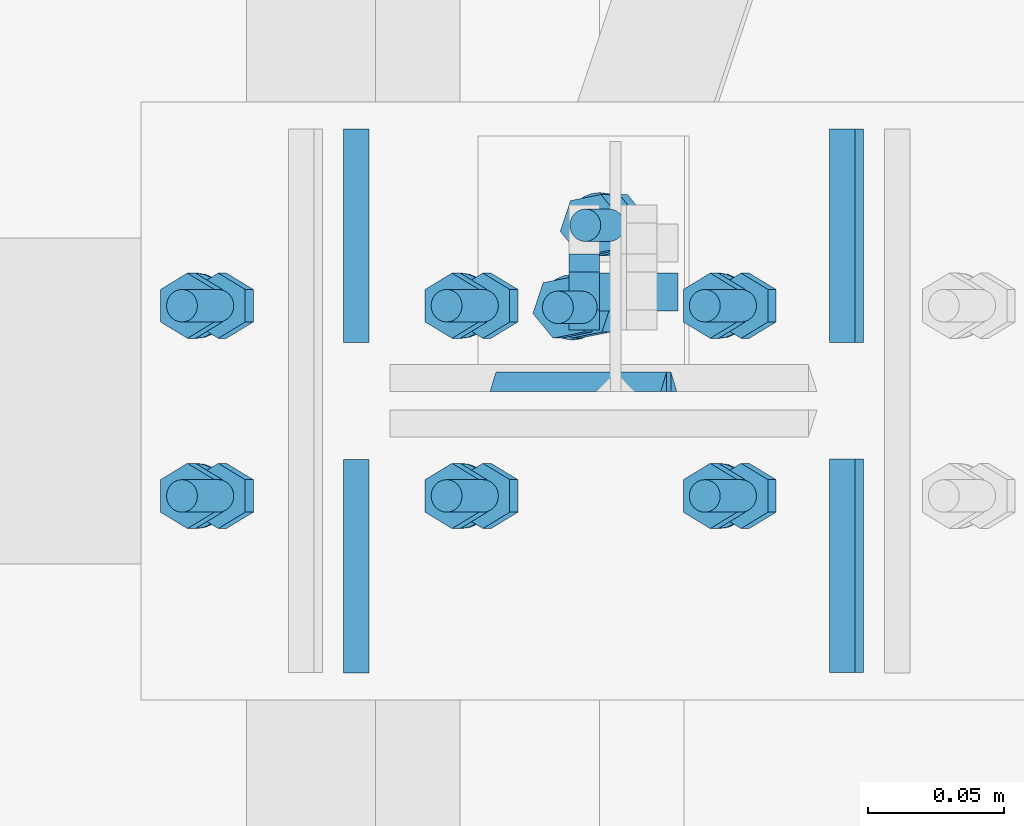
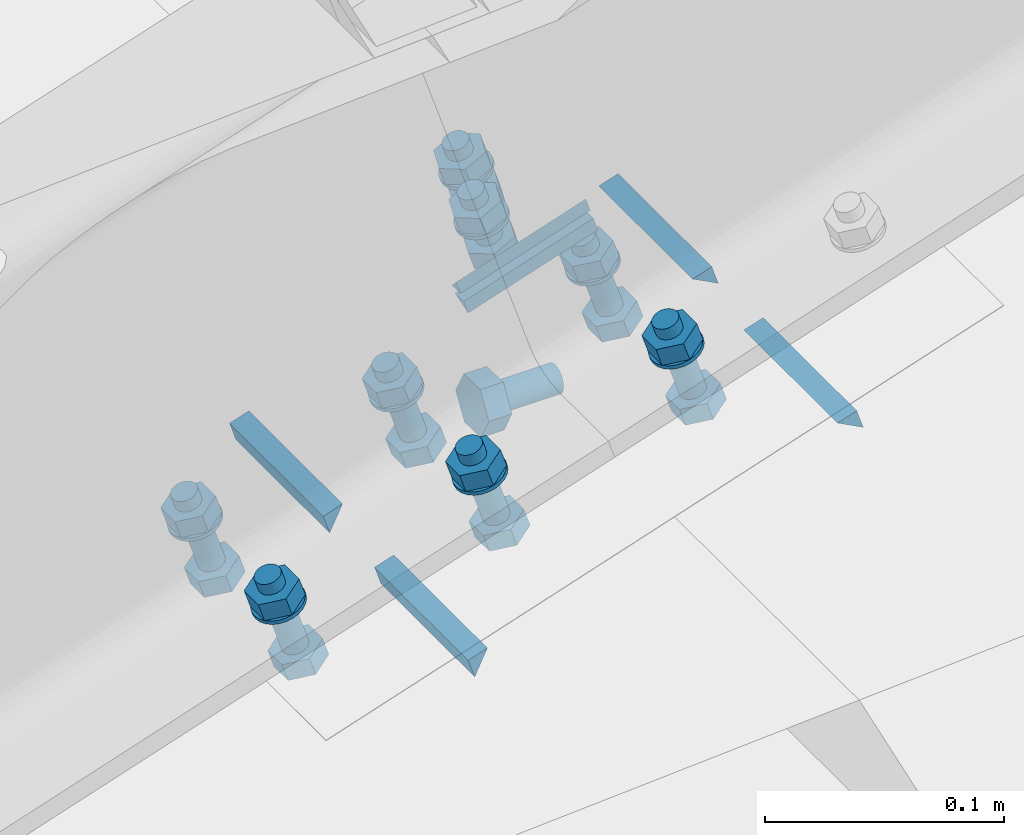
# One storey, part 35 of 53: 34 mechanical fasteners, 10 fasteners.
"""IFC4 building model written with IfcOpenShell, lengths in metres."""

from ifc_helpers import new_model, si_unit, frame, origin_with_axes, place, context, project, spatial, polyline, outline, extrude, type_object, element, save


model = new_model("IFC4")

# Units and contexts
model_context = context("Model", 3, precision=1e-05, world=origin_with_axes())
ifc_project = project(units=[si_unit("LENGTHUNIT", "METRE"), si_unit("AREAUNIT", "SQUARE_METRE"), si_unit("VOLUMEUNIT", "CUBIC_METRE"), si_unit("MASSUNIT", "GRAM", prefix="KILO"), si_unit("TIMEUNIT", "SECOND"), si_unit("PLANEANGLEUNIT", "RADIAN"), si_unit("SOLIDANGLEUNIT", "STERADIAN"), si_unit("THERMODYNAMICTEMPERATUREUNIT", "DEGREE_CELSIUS")], contexts=[model_context])

# Site, building, storey
placement_1 = place(None, origin_with_axes())
site = spatial("IfcSite", under=ifc_project, at=placement_1, Name="Italia", CompositionType="ELEMENT")
building = spatial("IfcBuilding", under=site, at=placement_1, Name="Capannone", CompositionType="ELEMENT")
storey_placement = place(None, frame((0.0, 0.0, 5.550000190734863), z_axis=(0.0, 0.0, 1.0), x_axis=(1.0, 0.0, 0.0)))
storey = spatial("IfcBuildingStorey", under=building, at=storey_placement, Name="Storey 1", CompositionType="ELEMENT", Elevation=5.550000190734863)

# Fasteners
fastener_type_1 = type_object("IfcFastenerType", Name="Collegamenti 0101_0001 0103_0003 0105_0005 0107_0007 0109_0009 0111_0011", PredefinedType="WELD")
placement_2 = place(placement_1, origin_with_axes())
fastener_1_placement = place(placement_2, origin_with_axes())
element("IfcFastener", 1, at=fastener_1_placement, inside=storey, type_object=fastener_type_1, Name="Collegamenti 0101_0001 0103_0003 0105_0005 0107_0007 0109_0009 0111_0011", context=model_context, shape_type="SweptSolid", body=[
    extrude(outline(polyline([(0.0, 0.0), (-0.00619942, -0.0127454), (-0.00937507, -0.00308037), (0.0, 0.0)])), frame((-0.0846885, 12.1, 5.50644), z_axis=(0.0, -1.0, 0.0), x_axis=(1.0, 0.0, 0.0)), (0.0, 0.0, 1.0), 0.0785999),
])
fastener_type_2 = type_object("IfcFastenerType", Name="Collegamenti 0101_0001 0103_0003 0105_0005 0107_0007 0109_0009 0111_0011", PredefinedType="WELD")
fastener_2_placement = place(placement_2, origin_with_axes())
element("IfcFastener", 2, at=fastener_2_placement, inside=storey, type_object=fastener_type_2, Name="Collegamenti 0101_0001 0103_0003 0105_0005 0107_0007 0109_0009 0111_0011", context=model_context, shape_type="SweptSolid", body=[
    extrude(outline(polyline([(0.0, 0.0), (-0.0125507, -0.00658464), (-0.00937507, 0.00308037), (0.0, 0.0)])), frame((0.0846564, 12.0215, 5.56208), z_axis=(0.0, 1.0, 0.0), x_axis=(-1.0, 0.0, 0.0)), (0.0, 0.0, 1.0), 0.0785999),
])
fastener_type_3 = type_object("IfcFastenerType", Name="Collegamenti 0101_0001 0103_0003 0105_0005 0107_0007 0109_0009 0111_0011", PredefinedType="WELD")
fastener_3_placement = place(placement_2, origin_with_axes())
element("IfcFastener", 3, at=fastener_3_placement, inside=storey, type_object=fastener_type_3, Name="Collegamenti 0101_0001 0103_0003 0105_0005 0107_0007 0109_0009 0111_0011", context=model_context, shape_type="SweptSolid", body=[
    extrude(outline(polyline([(0.0, 0.0), (-0.0125507, -0.00658464), (-0.00937507, 0.00308037), (0.0, 0.0)])), frame((0.0846564, 11.9, 5.56208), z_axis=(0.0, 1.0, 0.0), x_axis=(-1.0, 0.0, 0.0)), (0.0, 0.0, 1.0), 0.0785999),
])
fastener_type_4 = type_object("IfcFastenerType", Name="Collegamenti 0101_0001 0103_0003 0105_0005 0107_0007 0109_0009 0111_0011", PredefinedType="WELD")
fastener_4_placement = place(placement_2, origin_with_axes())
element("IfcFastener", 4, at=fastener_4_placement, inside=storey, type_object=fastener_type_4, Name="Collegamenti 0101_0001 0103_0003 0105_0005 0107_0007 0109_0009 0111_0011", context=model_context, shape_type="SweptSolid", body=[
    extrude(outline(polyline([(0.0, 0.0), (-0.00619942, -0.0127454), (-0.00937507, -0.00308037), (0.0, 0.0)])), frame((-0.0846885, 11.9785, 5.50644), z_axis=(0.0, -1.0, 0.0), x_axis=(1.0, 0.0, 0.0)), (0.0, 0.0, 1.0), 0.0785999),
])
fastener_type_5 = type_object("IfcFastenerType", Name="Collegamenti 0101_0001 0103_0003 0105_0005 0107_0007 0109_0009 0111_0011", PredefinedType="WELD")
fastener_5_placement = place(placement_2, origin_with_axes())
element("IfcFastener", 5, at=fastener_5_placement, inside=storey, type_object=fastener_type_5, Name="Collegamenti 0101_0001 0103_0003 0105_0005 0107_0007 0109_0009 0111_0011", context=model_context, shape_type="SweptSolid", body=[
    extrude(outline(polyline([(0.0, 0.0), (-0.00619942, -0.0127454), (-0.00937507, -0.00308037), (0.0, 0.0)])), frame((-0.0846885, 12.1, 5.50644), z_axis=(0.0, -1.0, 0.0), x_axis=(1.0, 0.0, 0.0)), (0.0, 0.0, 1.0), 0.0785999),
])
fastener_type_6 = type_object("IfcFastenerType", Name="Collegamenti 0101_0001 0103_0003 0105_0005 0107_0007 0109_0009 0111_0011", PredefinedType="WELD")
fastener_6_placement = place(placement_2, origin_with_axes())
element("IfcFastener", 6, at=fastener_6_placement, inside=storey, type_object=fastener_type_6, Name="Collegamenti 0101_0001 0103_0003 0105_0005 0107_0007 0109_0009 0111_0011", context=model_context, shape_type="SweptSolid", body=[
    extrude(outline(polyline([(0.0, 0.0), (-0.0125507, -0.00658464), (-0.00937507, 0.00308037), (0.0, 0.0)])), frame((0.0846564, 12.0215, 5.56208), z_axis=(0.0, 1.0, 0.0), x_axis=(-1.0, 0.0, 0.0)), (0.0, 0.0, 1.0), 0.0785999),
])
fastener_type_7 = type_object("IfcFastenerType", Name="Collegamenti 0101_0001 0103_0003 0105_0005 0107_0007 0109_0009 0111_0011", PredefinedType="WELD")
fastener_7_placement = place(placement_2, origin_with_axes())
element("IfcFastener", 7, at=fastener_7_placement, inside=storey, type_object=fastener_type_7, Name="Collegamenti 0101_0001 0103_0003 0105_0005 0107_0007 0109_0009 0111_0011", context=model_context, shape_type="SweptSolid", body=[
    extrude(outline(polyline([(0.0, 0.0), (-0.0125507, -0.00658464), (-0.00937507, 0.00308037), (0.0, 0.0)])), frame((0.0846564, 11.9, 5.56208), z_axis=(0.0, 1.0, 0.0), x_axis=(-1.0, 0.0, 0.0)), (0.0, 0.0, 1.0), 0.0785999),
])
fastener_type_8 = type_object("IfcFastenerType", Name="Collegamenti 0101_0001 0103_0003 0105_0005 0107_0007 0109_0009 0111_0011", PredefinedType="WELD")
fastener_8_placement = place(placement_2, origin_with_axes())
element("IfcFastener", 8, at=fastener_8_placement, inside=storey, type_object=fastener_type_8, Name="Collegamenti 0101_0001 0103_0003 0105_0005 0107_0007 0109_0009 0111_0011", context=model_context, shape_type="SweptSolid", body=[
    extrude(outline(polyline([(0.0, 0.0), (-0.00619942, -0.0127454), (-0.00937507, -0.00308037), (0.0, 0.0)])), frame((-0.0846885, 11.9785, 5.50644), z_axis=(0.0, -1.0, 0.0), x_axis=(1.0, 0.0, 0.0)), (0.0, 0.0, 1.0), 0.0785999),
])

# Mechanical fasteners
mechanical_fastener_type_1 = type_object("IfcMechanicalFastenerType", Name="Collegamenti 0101_0001 0103_0003 0105_0005 0107_0007 0109_0009 0111_0011", PredefinedType="BOLT")
mechanical_fastener_1_placement = place(placement_2, origin_with_axes())
element("IfcMechanicalFastener", 9, at=mechanical_fastener_1_placement, inside=storey, type_object=mechanical_fastener_type_1, Name="Collegamenti 0101_0001 0103_0003 0105_0005 0107_0007 0109_0009 0111_0011", NominalDiameter=0.0119998, context=model_context, shape_type="SweptSolid", body=[
    extrude(outline(polyline([(0.0, 0.0), (0.0120001, 0.0), (0.0179996, -0.0103923), (0.0120001, -0.0207845), (0.0, -0.0207845), (-0.00600052, -0.0103923), (0.0, 0.0)])), frame((-0.130325, 12.029, 5.49139), z_axis=(0.312164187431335, 0.0, -0.95002818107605), x_axis=(0.0, 1.0, 0.0)), (0.0, 0.0, 1.0), 0.0095997),
])
mechanical_fastener_type_2 = type_object("IfcMechanicalFastenerType", Name="Collegamenti 0101_0001 0103_0003 0105_0005 0107_0007 0109_0009 0111_0011", PredefinedType="BOLT")
mechanical_fastener_2_placement = place(placement_2, origin_with_axes())
element("IfcMechanicalFastener", 10, at=mechanical_fastener_2_placement, inside=storey, type_object=mechanical_fastener_type_2, Name="Collegamenti 0101_0001 0103_0003 0105_0005 0107_0007 0109_0009 0111_0011", NominalDiameter=0.012, context=model_context, shape_type="SweptSolid", body=[
    extrude(outline(polyline([(0.0, 0.0), (-0.000204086, -0.00155306), (-0.000802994, -0.00300002), (-0.00175667, -0.00424254), (-0.00299931, -0.00519633), (-0.00444698, -0.0057956), (-0.00599957, -0.00600004), (-0.00755215, -0.0057956), (-0.00899982, -0.00519633), (-0.0102425, -0.00424254), (-0.0111961, -0.00300002), (-0.011795, -0.00155306), (-0.0119991, 0.0), (-0.011795, 0.00155294), (-0.0111961, 0.00300002), (-0.0102425, 0.00424254), (-0.00899982, 0.00519621), (-0.00755215, 0.00579548), (-0.00599957, 0.00600004), (-0.00444698, 0.00579548), (-0.00299931, 0.00519621), (-0.00175667, 0.00424254), (-0.000802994, 0.00300002), (-0.000204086, 0.00155294), (0.0, 0.0)])), frame((-0.153558, 12.041, 5.52881), z_axis=(0.312153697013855, 0.0, -0.950031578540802), x_axis=(0.0, 1.0, 0.0)), (0.0, 0.0, 1.0), 0.0428),
])
mechanical_fastener_type_3 = type_object("IfcMechanicalFastenerType", Name="Collegamenti 0101_0001 0103_0003 0105_0005 0107_0007 0109_0009 0111_0011", PredefinedType="BOLT")
mechanical_fastener_3_placement = place(placement_2, origin_with_axes())
element("IfcMechanicalFastener", 11, at=mechanical_fastener_3_placement, inside=storey, type_object=mechanical_fastener_type_3, Name="Collegamenti 0101_0001 0103_0003 0105_0005 0107_0007 0109_0009 0111_0011", NominalDiameter=0.0119998, context=model_context, shape_type="SweptSolid", body=[
    extrude(outline(polyline([(0.0, 0.0), (0.0120001, 0.0), (0.0179996, -0.0103924), (0.0120001, -0.0207846), (0.0, -0.0207846), (-0.00600052, -0.0103924), (0.0, 0.0)])), frame((-0.141687, 12.029, 5.52597), z_axis=(0.312164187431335, 0.0, -0.95002818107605), x_axis=(0.0, 1.0, 0.0)), (0.0, 0.0, 1.0), 0.0095997),
])
mechanical_fastener_type_4 = type_object("IfcMechanicalFastenerType", Name="Collegamenti 0101_0001 0103_0003 0105_0005 0107_0007 0109_0009 0111_0011", PredefinedType="BOLT")
mechanical_fastener_4_placement = place(placement_2, origin_with_axes())
element("IfcMechanicalFastener", 12, at=mechanical_fastener_4_placement, inside=storey, type_object=mechanical_fastener_type_4, Name="Collegamenti 0101_0001 0103_0003 0105_0005 0107_0007 0109_0009 0111_0011", NominalDiameter=0.024, context=model_context, shape_type="SweptSolid", body=[
    extrude(outline(polyline([(0.0, 0.0), (-0.000409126, -0.00310576), (-0.00160789, -0.00599992), (-0.00351524, -0.0084852), (-0.00600052, -0.0103922), (-0.00889397, -0.0115911), (-0.0120001, -0.0119998), (-0.0151062, -0.0115911), (-0.0179996, -0.0103922), (-0.0204849, -0.0084852), (-0.0223923, -0.00599992), (-0.023591, -0.00310576), (-0.0240002, 0.0), (-0.023591, 0.003106), (-0.0223923, 0.00600016), (-0.0204849, 0.00848532), (-0.0179996, 0.0103924), (-0.0151062, 0.0115913), (-0.0120001, 0.0120001), (-0.00889397, 0.0115913), (-0.00600052, 0.0103924), (-0.00351524, 0.00848532), (-0.00160789, 0.00600016), (-0.000409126, 0.003106), (0.0, 0.0)])), frame((-0.148563, 12.047, 5.51361), z_axis=(0.312059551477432, 0.0, -0.95006251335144), x_axis=(0.0, 1.0, 0.0)), (0.0, 0.0, 1.0), 0.00200058),
])
mechanical_fastener_type_5 = type_object("IfcMechanicalFastenerType", Name="Collegamenti 0101_0001 0103_0003 0105_0005 0107_0007 0109_0009 0111_0011", PredefinedType="BOLT")
mechanical_fastener_5_placement = place(placement_2, origin_with_axes())
element("IfcMechanicalFastener", 13, at=mechanical_fastener_5_placement, inside=storey, type_object=mechanical_fastener_type_5, Name="Collegamenti 0101_0001 0103_0003 0105_0005 0107_0007 0109_0009 0111_0011", NominalDiameter=0.0119998, context=model_context, shape_type="SweptSolid", body=[
    extrude(outline(polyline([(0.0, 0.0), (0.0120001, 0.0), (0.0180006, -0.0103923), (0.0120001, -0.0207845), (0.0, -0.0207845), (-0.00599957, -0.0103923), (0.0, 0.0)])), frame((-0.130325, 11.959, 5.49139), z_axis=(0.312164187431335, 0.0, -0.95002818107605), x_axis=(0.0, 1.0, 0.0)), (0.0, 0.0, 1.0), 0.0095997),
])
mechanical_fastener_type_6 = type_object("IfcMechanicalFastenerType", Name="Collegamenti 0101_0001 0103_0003 0105_0005 0107_0007 0109_0009 0111_0011", PredefinedType="BOLT")
mechanical_fastener_6_placement = place(placement_2, origin_with_axes())
element("IfcMechanicalFastener", 14, at=mechanical_fastener_6_placement, inside=storey, type_object=mechanical_fastener_type_6, Name="Collegamenti 0101_0001 0103_0003 0105_0005 0107_0007 0109_0009 0111_0011", NominalDiameter=0.012, context=model_context, shape_type="SweptSolid", body=[
    extrude(outline(polyline([(0.0, 0.0), (-0.000204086, -0.00155306), (-0.000802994, -0.00300002), (-0.00175667, -0.00424254), (-0.00299931, -0.00519633), (-0.00444698, -0.0057956), (-0.00599957, -0.00600004), (-0.00755215, -0.0057956), (-0.00899982, -0.00519633), (-0.0102425, -0.00424254), (-0.0111961, -0.00300002), (-0.011795, -0.00155306), (-0.0119991, 0.0), (-0.011795, 0.00155294), (-0.0111961, 0.00300002), (-0.0102425, 0.00424254), (-0.00899982, 0.00519621), (-0.00755215, 0.00579548), (-0.00599957, 0.00600004), (-0.00444698, 0.00579548), (-0.00299931, 0.00519621), (-0.00175667, 0.00424254), (-0.000802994, 0.00300002), (-0.000204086, 0.00155294), (0.0, 0.0)])), frame((-0.153558, 11.971, 5.52881), z_axis=(0.312153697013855, 0.0, -0.950031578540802), x_axis=(0.0, 1.0, 0.0)), (0.0, 0.0, 1.0), 0.0428),
])
mechanical_fastener_type_7 = type_object("IfcMechanicalFastenerType", Name="Collegamenti 0101_0001 0103_0003 0105_0005 0107_0007 0109_0009 0111_0011", PredefinedType="BOLT")
mechanical_fastener_7_placement = place(placement_2, origin_with_axes())
element("IfcMechanicalFastener", 15, at=mechanical_fastener_7_placement, inside=storey, type_object=mechanical_fastener_type_7, Name="Collegamenti 0101_0001 0103_0003 0105_0005 0107_0007 0109_0009 0111_0011", NominalDiameter=0.0119998, context=model_context, shape_type="SweptSolid", body=[
    extrude(outline(polyline([(0.0, 0.0), (0.0120001, 0.0), (0.0180006, -0.0103924), (0.0120001, -0.0207846), (0.0, -0.0207846), (-0.00599957, -0.0103924), (0.0, 0.0)])), frame((-0.141687, 11.959, 5.52597), z_axis=(0.312164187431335, 0.0, -0.95002818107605), x_axis=(0.0, 1.0, 0.0)), (0.0, 0.0, 1.0), 0.0095997),
])
mechanical_fastener_type_8 = type_object("IfcMechanicalFastenerType", Name="Collegamenti 0101_0001 0103_0003 0105_0005 0107_0007 0109_0009 0111_0011", PredefinedType="BOLT")
mechanical_fastener_8_placement = place(placement_2, origin_with_axes())
element("IfcMechanicalFastener", 16, at=mechanical_fastener_8_placement, inside=storey, type_object=mechanical_fastener_type_8, Name="Collegamenti 0101_0001 0103_0003 0105_0005 0107_0007 0109_0009 0111_0011", NominalDiameter=0.024, context=model_context, shape_type="SweptSolid", body=[
    extrude(outline(polyline([(0.0, 0.0), (-0.000409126, -0.00310576), (-0.00160789, -0.00599992), (-0.00351524, -0.0084852), (-0.00600052, -0.0103922), (-0.00889397, -0.0115911), (-0.0120001, -0.0119998), (-0.0151062, -0.0115911), (-0.0179996, -0.0103922), (-0.0204849, -0.0084852), (-0.0223923, -0.00599992), (-0.023591, -0.00310576), (-0.0240002, 0.0), (-0.023591, 0.003106), (-0.0223923, 0.00600016), (-0.0204849, 0.00848532), (-0.0179996, 0.0103924), (-0.0151062, 0.0115913), (-0.0120001, 0.0120001), (-0.00889397, 0.0115913), (-0.00600052, 0.0103924), (-0.00351524, 0.00848532), (-0.00160789, 0.00600016), (-0.000409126, 0.003106), (0.0, 0.0)])), frame((-0.148563, 11.977, 5.51361), z_axis=(0.312059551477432, 0.0, -0.95006251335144), x_axis=(0.0, 1.0, 0.0)), (0.0, 0.0, 1.0), 0.00200058),
])
mechanical_fastener_type_9 = type_object("IfcMechanicalFastenerType", Name="Collegamenti 0101_0001 0103_0003 0105_0005 0107_0007 0109_0009 0111_0011", PredefinedType="BOLT")
mechanical_fastener_9_placement = place(placement_2, origin_with_axes())
element("IfcMechanicalFastener", 17, at=mechanical_fastener_9_placement, inside=storey, type_object=mechanical_fastener_type_9, Name="Collegamenti 0101_0001 0103_0003 0105_0005 0107_0007 0109_0009 0111_0011", NominalDiameter=0.0119998, context=model_context, shape_type="SweptSolid", body=[
    extrude(outline(polyline([(0.0, 0.0), (0.0120001, 0.0), (0.0179996, -0.0103924), (0.0120001, -0.0207846), (0.0, -0.0207846), (-0.00600052, -0.0103924), (0.0, 0.0)])), frame((0.0620569, 12.029, 5.5546), z_axis=(0.312162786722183, 0.0, -0.950028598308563), x_axis=(0.0, 1.0, 0.0)), (0.0, 0.0, 1.0), 0.0095997),
])
mechanical_fastener_type_10 = type_object("IfcMechanicalFastenerType", Name="Collegamenti 0101_0001 0103_0003 0105_0005 0107_0007 0109_0009 0111_0011", PredefinedType="BOLT")
mechanical_fastener_10_placement = place(placement_2, origin_with_axes())
element("IfcMechanicalFastener", 18, at=mechanical_fastener_10_placement, inside=storey, type_object=mechanical_fastener_type_10, Name="Collegamenti 0101_0001 0103_0003 0105_0005 0107_0007 0109_0009 0111_0011", NominalDiameter=0.012, context=model_context, shape_type="SweptSolid", body=[
    extrude(outline(polyline([(0.0, 0.0), (-0.000204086, -0.00155294), (-0.000802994, -0.0029999), (-0.00175667, -0.00424266), (-0.00299931, -0.00519621), (-0.00444698, -0.00579548), (-0.00599957, -0.00600004), (-0.00755215, -0.00579548), (-0.00899982, -0.00519621), (-0.0102425, -0.00424266), (-0.0111961, -0.0029999), (-0.011795, -0.00155294), (-0.0119991, 0.0), (-0.011795, 0.00155306), (-0.0111961, 0.00300002), (-0.0102425, 0.00424254), (-0.00899982, 0.00519621), (-0.00755215, 0.0057956), (-0.00599957, 0.00600004), (-0.00444698, 0.0057956), (-0.00299931, 0.00519621), (-0.00175667, 0.00424254), (-0.000802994, 0.00300002), (-0.000204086, 0.00155306), (0.0, 0.0)])), frame((0.0388237, 12.041, 5.59202), z_axis=(0.312154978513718, 0.0, -0.950031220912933), x_axis=(0.0, 1.0, 0.0)), (0.0, 0.0, 1.0), 0.0428),
])
mechanical_fastener_type_11 = type_object("IfcMechanicalFastenerType", Name="Collegamenti 0101_0001 0103_0003 0105_0005 0107_0007 0109_0009 0111_0011", PredefinedType="BOLT")
mechanical_fastener_11_placement = place(placement_2, origin_with_axes())
element("IfcMechanicalFastener", 19, at=mechanical_fastener_11_placement, inside=storey, type_object=mechanical_fastener_type_11, Name="Collegamenti 0101_0001 0103_0003 0105_0005 0107_0007 0109_0009 0111_0011", NominalDiameter=0.0119998, context=model_context, shape_type="SweptSolid", body=[
    extrude(outline(polyline([(0.0, 0.0), (0.0120001, 0.0), (0.0179996, -0.0103922), (0.0120001, -0.0207845), (0.0, -0.0207845), (-0.00600052, -0.0103922), (0.0, 0.0)])), frame((0.0506946, 12.029, 5.58918), z_axis=(0.312163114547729, 0.0, -0.950028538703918), x_axis=(0.0, 1.0, 0.0)), (0.0, 0.0, 1.0), 0.0095997),
])
mechanical_fastener_type_12 = type_object("IfcMechanicalFastenerType", Name="Collegamenti 0101_0001 0103_0003 0105_0005 0107_0007 0109_0009 0111_0011", PredefinedType="BOLT")
mechanical_fastener_12_placement = place(placement_2, origin_with_axes())
element("IfcMechanicalFastener", 20, at=mechanical_fastener_12_placement, inside=storey, type_object=mechanical_fastener_type_12, Name="Collegamenti 0101_0001 0103_0003 0105_0005 0107_0007 0109_0009 0111_0011", NominalDiameter=0.024, context=model_context, shape_type="SweptSolid", body=[
    extrude(outline(polyline([(0.0, 0.0), (-0.000409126, -0.003106), (-0.00160789, -0.00600004), (-0.00351524, -0.00848544), (-0.00600052, -0.0103923), (-0.00889397, -0.0115912), (-0.0120001, -0.0120001), (-0.0151062, -0.0115912), (-0.0179996, -0.0103923), (-0.0204849, -0.00848544), (-0.0223923, -0.00600004), (-0.023591, -0.003106), (-0.0240002, 0.0), (-0.023591, 0.00310588), (-0.0223923, 0.0059998), (-0.0204849, 0.0084852), (-0.0179996, 0.0103922), (-0.0151062, 0.011591), (-0.0120001, 0.012), (-0.00889397, 0.011591), (-0.00600052, 0.0103922), (-0.00351524, 0.0084852), (-0.00160789, 0.0059998), (-0.000409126, 0.00310588), (0.0, 0.0)])), frame((0.0438182, 12.047, 5.57682), z_axis=(0.312204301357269, 0.0, -0.950015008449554), x_axis=(0.0, 1.0, 0.0)), (0.0, 0.0, 1.0), 0.00199967),
])
mechanical_fastener_type_13 = type_object("IfcMechanicalFastenerType", Name="Collegamenti 0101_0001 0103_0003 0105_0005 0107_0007 0109_0009 0111_0011", PredefinedType="BOLT")
mechanical_fastener_13_placement = place(placement_2, origin_with_axes())
element("IfcMechanicalFastener", 21, at=mechanical_fastener_13_placement, inside=storey, type_object=mechanical_fastener_type_13, Name="Collegamenti 0101_0001 0103_0003 0105_0005 0107_0007 0109_0009 0111_0011", NominalDiameter=0.0119998, context=model_context, shape_type="SweptSolid", body=[
    extrude(outline(polyline([(0.0, 0.0), (0.0120001, 0.0), (0.0180006, -0.0103924), (0.0120001, -0.0207846), (0.0, -0.0207846), (-0.00599957, -0.0103924), (0.0, 0.0)])), frame((0.0620569, 11.959, 5.5546), z_axis=(0.312162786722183, 0.0, -0.950028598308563), x_axis=(0.0, 1.0, 0.0)), (0.0, 0.0, 1.0), 0.0095997),
])
mechanical_fastener_type_14 = type_object("IfcMechanicalFastenerType", Name="Collegamenti 0101_0001 0103_0003 0105_0005 0107_0007 0109_0009 0111_0011", PredefinedType="BOLT")
mechanical_fastener_14_placement = place(placement_2, origin_with_axes())
element("IfcMechanicalFastener", 22, at=mechanical_fastener_14_placement, inside=storey, type_object=mechanical_fastener_type_14, Name="Collegamenti 0101_0001 0103_0003 0105_0005 0107_0007 0109_0009 0111_0011", NominalDiameter=0.012, context=model_context, shape_type="SweptSolid", body=[
    extrude(outline(polyline([(0.0, 0.0), (-0.000204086, -0.00155294), (-0.000802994, -0.0029999), (-0.00175667, -0.00424266), (-0.00299931, -0.00519621), (-0.00444698, -0.00579548), (-0.00599957, -0.00600004), (-0.00755215, -0.00579548), (-0.00899982, -0.00519621), (-0.0102425, -0.00424266), (-0.0111961, -0.0029999), (-0.011795, -0.00155294), (-0.0119991, 0.0), (-0.011795, 0.00155306), (-0.0111961, 0.00300002), (-0.0102425, 0.00424254), (-0.00899982, 0.00519621), (-0.00755215, 0.0057956), (-0.00599957, 0.00600004), (-0.00444698, 0.0057956), (-0.00299931, 0.00519621), (-0.00175667, 0.00424254), (-0.000802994, 0.00300002), (-0.000204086, 0.00155306), (0.0, 0.0)])), frame((0.0388237, 11.971, 5.59202), z_axis=(0.312154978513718, 0.0, -0.950031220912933), x_axis=(0.0, 1.0, 0.0)), (0.0, 0.0, 1.0), 0.0428),
])
mechanical_fastener_type_15 = type_object("IfcMechanicalFastenerType", Name="Collegamenti 0101_0001 0103_0003 0105_0005 0107_0007 0109_0009 0111_0011", PredefinedType="BOLT")
mechanical_fastener_15_placement = place(placement_2, origin_with_axes())
element("IfcMechanicalFastener", 23, at=mechanical_fastener_15_placement, inside=storey, type_object=mechanical_fastener_type_15, Name="Collegamenti 0101_0001 0103_0003 0105_0005 0107_0007 0109_0009 0111_0011", NominalDiameter=0.0119998, context=model_context, shape_type="SweptSolid", body=[
    extrude(outline(polyline([(0.0, 0.0), (0.0120001, 0.0), (0.0180006, -0.0103922), (0.0120001, -0.0207845), (0.0, -0.0207845), (-0.00599957, -0.0103922), (0.0, 0.0)])), frame((0.0506946, 11.959, 5.58918), z_axis=(0.312163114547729, 0.0, -0.950028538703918), x_axis=(0.0, 1.0, 0.0)), (0.0, 0.0, 1.0), 0.0095997),
])
mechanical_fastener_type_16 = type_object("IfcMechanicalFastenerType", Name="Collegamenti 0101_0001 0103_0003 0105_0005 0107_0007 0109_0009 0111_0011", PredefinedType="BOLT")
mechanical_fastener_16_placement = place(placement_2, origin_with_axes())
element("IfcMechanicalFastener", 24, at=mechanical_fastener_16_placement, inside=storey, type_object=mechanical_fastener_type_16, Name="Collegamenti 0101_0001 0103_0003 0105_0005 0107_0007 0109_0009 0111_0011", NominalDiameter=0.024, context=model_context, shape_type="SweptSolid", body=[
    extrude(outline(polyline([(0.0, 0.0), (-0.000409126, -0.003106), (-0.00160789, -0.00600004), (-0.00351524, -0.00848544), (-0.00600052, -0.0103923), (-0.00889397, -0.0115912), (-0.0120001, -0.0120001), (-0.0151062, -0.0115912), (-0.0179996, -0.0103923), (-0.0204849, -0.00848544), (-0.0223923, -0.00600004), (-0.023591, -0.003106), (-0.0240002, 0.0), (-0.023591, 0.00310588), (-0.0223923, 0.0059998), (-0.0204849, 0.0084852), (-0.0179996, 0.0103922), (-0.0151062, 0.011591), (-0.0120001, 0.012), (-0.00889397, 0.011591), (-0.00600052, 0.0103922), (-0.00351524, 0.0084852), (-0.00160789, 0.0059998), (-0.000409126, 0.00310588), (0.0, 0.0)])), frame((0.0438182, 11.977, 5.57682), z_axis=(0.312204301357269, 0.0, -0.950015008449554), x_axis=(0.0, 1.0, 0.0)), (0.0, 0.0, 1.0), 0.00199967),
])
mechanical_fastener_type_17 = type_object("IfcMechanicalFastenerType", Name="Collegamenti 0101_0001 0103_0003 0105_0005 0107_0007 0109_0009 0111_0011", PredefinedType="BOLT")
mechanical_fastener_17_placement = place(placement_2, origin_with_axes())
element("IfcMechanicalFastener", 25, at=mechanical_fastener_17_placement, inside=storey, type_object=mechanical_fastener_type_17, Name="Collegamenti 0101_0001 0103_0003 0105_0005 0107_0007 0109_0009 0111_0011", NominalDiameter=0.0119998, context=model_context, shape_type="SweptSolid", body=[
    extrude(outline(polyline([(0.0, 0.0), (0.0120001, 0.0), (0.0179996, -0.0103922), (0.0120001, -0.0207846), (0.0, -0.0207846), (-0.00600052, -0.0103922), (0.0, 0.0)])), frame((-0.0329462, 12.029, 5.52339), z_axis=(0.312148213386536, 0.0, -0.95003342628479), x_axis=(0.0, 1.0, 0.0)), (0.0, 0.0, 1.0), 0.00960015),
])
mechanical_fastener_type_18 = type_object("IfcMechanicalFastenerType", Name="Collegamenti 0101_0001 0103_0003 0105_0005 0107_0007 0109_0009 0111_0011", PredefinedType="BOLT")
mechanical_fastener_18_placement = place(placement_2, origin_with_axes())
element("IfcMechanicalFastener", 26, at=mechanical_fastener_18_placement, inside=storey, type_object=mechanical_fastener_type_18, Name="Collegamenti 0101_0001 0103_0003 0105_0005 0107_0007 0109_0009 0111_0011", NominalDiameter=0.012, context=model_context, shape_type="SweptSolid", body=[
    extrude(outline(polyline([(0.0, 0.0), (-0.000204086, -0.00155294), (-0.000802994, -0.00300002), (-0.00175667, -0.00424266), (-0.00299931, -0.00519621), (-0.00444698, -0.0057956), (-0.00599957, -0.00600004), (-0.00755215, -0.0057956), (-0.00899982, -0.00519621), (-0.0102425, -0.00424266), (-0.0111961, -0.00300002), (-0.011795, -0.00155294), (-0.0119991, 0.0), (-0.011795, 0.00155306), (-0.0111961, 0.00300002), (-0.0102425, 0.00424254), (-0.00899982, 0.00519609), (-0.00755215, 0.0057956), (-0.00599957, 0.00600004), (-0.00444698, 0.0057956), (-0.00299931, 0.00519609), (-0.00175667, 0.00424254), (-0.000802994, 0.00300002), (-0.000204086, 0.00155306), (0.0, 0.0)])), frame((-0.0561794, 12.041, 5.5608), z_axis=(0.312153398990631, 0.0, -0.950031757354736), x_axis=(0.0, 1.0, 0.0)), (0.0, 0.0, 1.0), 0.0428),
])
mechanical_fastener_type_19 = type_object("IfcMechanicalFastenerType", Name="Collegamenti 0101_0001 0103_0003 0105_0005 0107_0007 0109_0009 0111_0011", PredefinedType="BOLT")
mechanical_fastener_19_placement = place(placement_2, origin_with_axes())
element("IfcMechanicalFastener", 27, at=mechanical_fastener_19_placement, inside=storey, type_object=mechanical_fastener_type_19, Name="Collegamenti 0101_0001 0103_0003 0105_0005 0107_0007 0109_0009 0111_0011", NominalDiameter=0.0119998, context=model_context, shape_type="SweptSolid", body=[
    extrude(outline(polyline([(0.0, 0.0), (0.0120001, 0.0), (0.0179996, -0.0103922), (0.0120001, -0.0207845), (0.0, -0.0207845), (-0.00600052, -0.0103922), (0.0, 0.0)])), frame((-0.0443086, 12.029, 5.55797), z_axis=(0.31214839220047, 0.0, -0.9500333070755), x_axis=(0.0, 1.0, 0.0)), (0.0, 0.0, 1.0), 0.00960015),
])
mechanical_fastener_type_20 = type_object("IfcMechanicalFastenerType", Name="Collegamenti 0101_0001 0103_0003 0105_0005 0107_0007 0109_0009 0111_0011", PredefinedType="BOLT")
mechanical_fastener_20_placement = place(placement_2, origin_with_axes())
element("IfcMechanicalFastener", 28, at=mechanical_fastener_20_placement, inside=storey, type_object=mechanical_fastener_type_20, Name="Collegamenti 0101_0001 0103_0003 0105_0005 0107_0007 0109_0009 0111_0011", NominalDiameter=0.024, context=model_context, shape_type="SweptSolid", body=[
    extrude(outline(polyline([(0.0, 0.0), (-0.000409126, -0.00310588), (-0.00160789, -0.00600004), (-0.00351524, -0.00848532), (-0.00600052, -0.0103923), (-0.00889397, -0.0115912), (-0.0120001, -0.012), (-0.0151062, -0.0115912), (-0.0179996, -0.0103923), (-0.0204849, -0.00848532), (-0.0223923, -0.00600004), (-0.023591, -0.00310588), (-0.0240002, 0.0), (-0.023591, 0.00310588), (-0.0223923, 0.00600004), (-0.0204849, 0.0084852), (-0.0179996, 0.0103923), (-0.0151062, 0.0115912), (-0.0120001, 0.012), (-0.00889397, 0.0115912), (-0.00600052, 0.0103923), (-0.00351524, 0.0084852), (-0.00160789, 0.00600004), (-0.000409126, 0.00310588), (0.0, 0.0)])), frame((-0.051185, 12.047, 5.5456), z_axis=(0.312062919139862, 0.0, -0.950061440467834), x_axis=(0.0, 1.0, 0.0)), (0.0, 0.0, 1.0), 0.00200058),
])
mechanical_fastener_type_21 = type_object("IfcMechanicalFastenerType", Name="Collegamenti 0101_0001 0103_0003 0105_0005 0107_0007 0109_0009 0111_0011", PredefinedType="BOLT")
mechanical_fastener_21_placement = place(placement_2, origin_with_axes())
element("IfcMechanicalFastener", 29, at=mechanical_fastener_21_placement, inside=storey, type_object=mechanical_fastener_type_21, Name="Collegamenti 0101_0001 0103_0003 0105_0005 0107_0007 0109_0009 0111_0011", NominalDiameter=0.0119998, context=model_context, shape_type="SweptSolid", body=[
    extrude(outline(polyline([(0.0, 0.0), (0.0120001, 0.0), (0.0180006, -0.0103922), (0.0120001, -0.0207846), (0.0, -0.0207846), (-0.00599957, -0.0103922), (0.0, 0.0)])), frame((-0.0329462, 11.959, 5.52339), z_axis=(0.312148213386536, 0.0, -0.95003342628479), x_axis=(0.0, 1.0, 0.0)), (0.0, 0.0, 1.0), 0.00960015),
])
mechanical_fastener_type_22 = type_object("IfcMechanicalFastenerType", Name="Collegamenti 0101_0001 0103_0003 0105_0005 0107_0007 0109_0009 0111_0011", PredefinedType="BOLT")
mechanical_fastener_22_placement = place(placement_2, origin_with_axes())
element("IfcMechanicalFastener", 30, at=mechanical_fastener_22_placement, inside=storey, type_object=mechanical_fastener_type_22, Name="Collegamenti 0101_0001 0103_0003 0105_0005 0107_0007 0109_0009 0111_0011", NominalDiameter=0.012, context=model_context, shape_type="SweptSolid", body=[
    extrude(outline(polyline([(0.0, 0.0), (-0.000204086, -0.00155294), (-0.000802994, -0.00300002), (-0.00175667, -0.00424266), (-0.00299931, -0.00519621), (-0.00444698, -0.0057956), (-0.00599957, -0.00600004), (-0.00755215, -0.0057956), (-0.00899982, -0.00519621), (-0.0102425, -0.00424266), (-0.0111961, -0.00300002), (-0.011795, -0.00155294), (-0.0119991, 0.0), (-0.011795, 0.00155306), (-0.0111961, 0.00300002), (-0.0102425, 0.00424254), (-0.00899982, 0.00519609), (-0.00755215, 0.0057956), (-0.00599957, 0.00600004), (-0.00444698, 0.0057956), (-0.00299931, 0.00519609), (-0.00175667, 0.00424254), (-0.000802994, 0.00300002), (-0.000204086, 0.00155306), (0.0, 0.0)])), frame((-0.0561794, 11.971, 5.5608), z_axis=(0.312153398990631, 0.0, -0.950031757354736), x_axis=(0.0, 1.0, 0.0)), (0.0, 0.0, 1.0), 0.0428),
])
mechanical_fastener_type_23 = type_object("IfcMechanicalFastenerType", Name="Collegamenti 0101_0001 0103_0003 0105_0005 0107_0007 0109_0009 0111_0011", PredefinedType="BOLT")
mechanical_fastener_23_placement = place(placement_2, origin_with_axes())
element("IfcMechanicalFastener", 31, at=mechanical_fastener_23_placement, inside=storey, type_object=mechanical_fastener_type_23, Name="Collegamenti 0101_0001 0103_0003 0105_0005 0107_0007 0109_0009 0111_0011", NominalDiameter=0.0119998, context=model_context, shape_type="SweptSolid", body=[
    extrude(outline(polyline([(0.0, 0.0), (0.0120001, 0.0), (0.0180006, -0.0103922), (0.0120001, -0.0207845), (0.0, -0.0207845), (-0.00599957, -0.0103922), (0.0, 0.0)])), frame((-0.0443086, 11.959, 5.55797), z_axis=(0.31214839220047, 0.0, -0.9500333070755), x_axis=(0.0, 1.0, 0.0)), (0.0, 0.0, 1.0), 0.00960015),
])
mechanical_fastener_type_24 = type_object("IfcMechanicalFastenerType", Name="Collegamenti 0101_0001 0103_0003 0105_0005 0107_0007 0109_0009 0111_0011", PredefinedType="BOLT")
mechanical_fastener_24_placement = place(placement_2, origin_with_axes())
element("IfcMechanicalFastener", 32, at=mechanical_fastener_24_placement, inside=storey, type_object=mechanical_fastener_type_24, Name="Collegamenti 0101_0001 0103_0003 0105_0005 0107_0007 0109_0009 0111_0011", NominalDiameter=0.024, context=model_context, shape_type="SweptSolid", body=[
    extrude(outline(polyline([(0.0, 0.0), (-0.000409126, -0.00310588), (-0.00160789, -0.00600004), (-0.00351524, -0.00848532), (-0.00600052, -0.0103923), (-0.00889397, -0.0115912), (-0.0120001, -0.012), (-0.0151062, -0.0115912), (-0.0179996, -0.0103923), (-0.0204849, -0.00848532), (-0.0223923, -0.00600004), (-0.023591, -0.00310588), (-0.0240002, 0.0), (-0.023591, 0.00310588), (-0.0223923, 0.00600004), (-0.0204849, 0.0084852), (-0.0179996, 0.0103923), (-0.0151062, 0.0115912), (-0.0120001, 0.012), (-0.00889397, 0.0115912), (-0.00600052, 0.0103923), (-0.00351524, 0.0084852), (-0.00160789, 0.00600004), (-0.000409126, 0.00310588), (0.0, 0.0)])), frame((-0.051185, 11.977, 5.5456), z_axis=(0.312062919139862, 0.0, -0.950061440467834), x_axis=(0.0, 1.0, 0.0)), (0.0, 0.0, 1.0), 0.00200058),
])
mechanical_fastener_type_25 = type_object("IfcMechanicalFastenerType", Name="Collegamento 0109_-1057", PredefinedType="BOLT")
mechanical_fastener_25_placement = place(placement_2, origin_with_axes())
element("IfcMechanicalFastener", 33, at=mechanical_fastener_25_placement, inside=storey, type_object=mechanical_fastener_type_25, Name="Collegamento 0109_-1057", NominalDiameter=0.0119997, context=model_context, shape_type="SweptSolid", body=[
    extrude(outline(polyline([(0.0, 0.0), (-0.011323, -0.00397301), (-0.0135441, -0.0157657), (-0.00444221, -0.0235854), (0.00688171, -0.0196124), (0.00910187, -0.00781965), (0.0, 0.0)])), frame((0.00472905, 12.0366, 5.61208), z_axis=(0.312148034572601, 0.0, -0.95003342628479), x_axis=(0.0, 1.0, 0.0)), (0.0, 0.0, 1.0), 0.00960015),
])
mechanical_fastener_type_26 = type_object("IfcMechanicalFastenerType", Name="Collegamento 0109_-1057", PredefinedType="BOLT")
mechanical_fastener_26_placement = place(placement_2, origin_with_axes())
element("IfcMechanicalFastener", 34, at=mechanical_fastener_26_placement, inside=storey, type_object=mechanical_fastener_type_26, Name="Collegamento 0109_-1057", NominalDiameter=0.012, context=model_context, shape_type="SweptSolid", body=[
    extrude(outline(polyline([(0.0, 0.0), (-0.000204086, -0.00155306), (-0.000802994, -0.00300002), (-0.00175667, -0.00424254), (-0.00299931, -0.00519633), (-0.00444698, -0.0057956), (-0.00599957, -0.00600004), (-0.00755215, -0.0057956), (-0.00899982, -0.00519633), (-0.0102425, -0.00424254), (-0.0111961, -0.00300002), (-0.011795, -0.00155306), (-0.0119991, 0.0), (-0.011795, 0.00155294), (-0.0111961, 0.0029999), (-0.0102425, 0.00424266), (-0.00899982, 0.00519621), (-0.00755215, 0.00579548), (-0.00599957, 0.00600004), (-0.00444698, 0.00579548), (-0.00299931, 0.00519621), (-0.00175667, 0.00424266), (-0.000802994, 0.0029999), (-0.000204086, 0.00155294), (0.0, 0.0)])), frame((-0.0152147, 12.0404, 5.635), z_axis=(0.312153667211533, 0.0, -0.950031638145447), x_axis=(0.0, 1.0, 0.0)), (0.0, 0.0, 1.0), 0.028),
])
mechanical_fastener_type_27 = type_object("IfcMechanicalFastenerType", Name="Collegamento 0109_-1057", PredefinedType="BOLT")
mechanical_fastener_27_placement = place(placement_2, origin_with_axes())
element("IfcMechanicalFastener", 35, at=mechanical_fastener_27_placement, inside=storey, type_object=mechanical_fastener_type_27, Name="Collegamento 0109_-1057", NominalDiameter=0.0119997, context=model_context, shape_type="SweptSolid", body=[
    extrude(outline(polyline([(0.0, 0.0), (-0.011323, -0.00397301), (-0.0135441, -0.0157657), (-0.00444221, -0.0235856), (0.00688171, -0.0196126), (0.00910187, -0.00781977), (0.0, 0.0)])), frame((-0.00201346, 12.0366, 5.6326), z_axis=(0.312148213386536, 0.0, -0.95003342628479), x_axis=(0.0, 1.0, 0.0)), (0.0, 0.0, 1.0), 0.00960015),
])
mechanical_fastener_type_28 = type_object("IfcMechanicalFastenerType", Name="Collegamento 0109_-1057", PredefinedType="BOLT")
mechanical_fastener_28_placement = place(placement_2, origin_with_axes())
element("IfcMechanicalFastener", 36, at=mechanical_fastener_28_placement, inside=storey, type_object=mechanical_fastener_type_28, Name="Collegamento 0109_-1057", NominalDiameter=0.024, context=model_context, shape_type="SweptSolid", body=[
    extrude(outline(polyline([(0.0, 0.0), (-0.000409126, -0.00310576), (-0.00160789, -0.00600004), (-0.00351524, -0.0084852), (-0.00600052, -0.0103923), (-0.00889397, -0.011591), (-0.0120001, -0.012), (-0.0151062, -0.011591), (-0.0179996, -0.0103923), (-0.0204849, -0.0084852), (-0.0223923, -0.00600004), (-0.023591, -0.00310576), (-0.0240002, 0.0), (-0.023591, 0.00310588), (-0.0223923, 0.00600016), (-0.0204849, 0.00848532), (-0.0179996, 0.0103924), (-0.0151062, 0.0115911), (-0.0120001, 0.0120001), (-0.00889397, 0.0115911), (-0.00600052, 0.0103924), (-0.00351524, 0.00848532), (-0.00160789, 0.00600016), (-0.000409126, 0.00310588), (0.0, 0.0)])), frame((-0.0102202, 12.0464, 5.6198), z_axis=(0.312133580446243, 0.0, -0.950038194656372), x_axis=(0.0, 1.0, 0.0)), (0.0, 0.0, 1.0), 0.00200013),
])
mechanical_fastener_type_29 = type_object("IfcMechanicalFastenerType", Name="Collegamento 0109_-1057", PredefinedType="BOLT")
mechanical_fastener_29_placement = place(placement_2, origin_with_axes())
element("IfcMechanicalFastener", 37, at=mechanical_fastener_29_placement, inside=storey, type_object=mechanical_fastener_type_29, Name="Collegamento 0109_-1057", NominalDiameter=0.0119997, context=model_context, shape_type="SweptSolid", body=[
    extrude(outline(polyline([(0.0, 0.0), (-0.011323, -0.00397289), (-0.0135441, -0.0157655), (-0.00444221, -0.0235853), (0.00688171, -0.0196123), (0.00910282, -0.00781965), (0.0, 0.0)])), frame((0.0147941, 12.0668, 5.61539), z_axis=(0.31214839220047, 0.0, -0.9500333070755), x_axis=(0.0, 1.0, 0.0)), (0.0, 0.0, 1.0), 0.00960015),
])
mechanical_fastener_type_30 = type_object("IfcMechanicalFastenerType", Name="Collegamento 0109_-1057", PredefinedType="BOLT")
mechanical_fastener_30_placement = place(placement_2, origin_with_axes())
element("IfcMechanicalFastener", 38, at=mechanical_fastener_30_placement, inside=storey, type_object=mechanical_fastener_type_30, Name="Collegamento 0109_-1057", NominalDiameter=0.012, context=model_context, shape_type="SweptSolid", body=[
    extrude(outline(polyline([(0.0, 0.0), (-0.000204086, -0.00155306), (-0.000802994, -0.00300002), (-0.00175667, -0.00424254), (-0.00299931, -0.00519609), (-0.00444698, -0.0057956), (-0.00599957, -0.00600004), (-0.00755215, -0.0057956), (-0.00899982, -0.00519609), (-0.0102425, -0.00424254), (-0.0111961, -0.00300002), (-0.011795, -0.00155306), (-0.0119991, 0.0), (-0.011795, 0.00155294), (-0.0111961, 0.00300014), (-0.0102425, 0.00424266), (-0.00899982, 0.00519621), (-0.00755215, 0.0057956), (-0.00599957, 0.00600004), (-0.00444698, 0.0057956), (-0.00299931, 0.00519621), (-0.00175667, 0.00424266), (-0.000802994, 0.00300002), (-0.000204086, 0.00155294), (0.0, 0.0)])), frame((-0.00514956, 12.0706, 5.63831), z_axis=(0.312153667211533, 0.0, -0.950031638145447), x_axis=(0.0, 1.0, 0.0)), (0.0, 0.0, 1.0), 0.028),
])
mechanical_fastener_type_31 = type_object("IfcMechanicalFastenerType", Name="Collegamento 0109_-1057", PredefinedType="BOLT")
mechanical_fastener_31_placement = place(placement_2, origin_with_axes())
element("IfcMechanicalFastener", 39, at=mechanical_fastener_31_placement, inside=storey, type_object=mechanical_fastener_type_31, Name="Collegamento 0109_-1057", NominalDiameter=0.0119997, context=model_context, shape_type="SweptSolid", body=[
    extrude(outline(polyline([(0.0, 0.0), (-0.011323, -0.00397301), (-0.0135441, -0.0157657), (-0.00444221, -0.0235854), (0.00688171, -0.0196124), (0.00910282, -0.00781977), (0.0, 0.0)])), frame((0.00805164, 12.0668, 5.63591), z_axis=(0.31214839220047, 0.0, -0.9500333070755), x_axis=(0.0, 1.0, 0.0)), (0.0, 0.0, 1.0), 0.00960015),
])
mechanical_fastener_type_32 = type_object("IfcMechanicalFastenerType", Name="Collegamento 0109_-1057", PredefinedType="BOLT")
mechanical_fastener_32_placement = place(placement_2, origin_with_axes())
element("IfcMechanicalFastener", 40, at=mechanical_fastener_32_placement, inside=storey, type_object=mechanical_fastener_type_32, Name="Collegamento 0109_-1057", NominalDiameter=0.024, context=model_context, shape_type="SweptSolid", body=[
    extrude(outline(polyline([(0.0, 0.0), (-0.000409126, -0.00310588), (-0.00160789, -0.00600004), (-0.00351524, -0.00848532), (-0.00600052, -0.0103923), (-0.00889397, -0.0115911), (-0.0120001, -0.0120001), (-0.0151062, -0.0115911), (-0.0179996, -0.0103923), (-0.0204849, -0.00848532), (-0.0223923, -0.00600004), (-0.023591, -0.00310588), (-0.0240002, 0.0), (-0.023591, 0.00310588), (-0.0223923, 0.00599992), (-0.0204849, 0.00848532), (-0.0179996, 0.0103923), (-0.0151062, 0.0115911), (-0.0120001, 0.0120001), (-0.00889397, 0.0115911), (-0.00600052, 0.0103923), (-0.00351524, 0.00848532), (-0.00160789, 0.00599992), (-0.000409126, 0.00310588), (0.0, 0.0)])), frame((-0.000155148, 12.0766, 5.62311), z_axis=(0.312236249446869, 0.0, -0.950004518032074), x_axis=(0.0, 1.0, 0.0)), (0.0, 0.0, 1.0), 0.00199969),
])

# Fasteners
fastener_type_9 = type_object("IfcFastenerType", Name="Collegamento 0109_-1057", PredefinedType="WELD")
fastener_9_placement = place(placement_2, origin_with_axes())
element("IfcFastener", 41, at=fastener_9_placement, inside=storey, type_object=fastener_type_9, Name="Collegamento 0109_-1057", context=model_context, shape_type="SweptSolid", body=[
    extrude(outline(polyline([(0.0, 0.0), (0.00717258, -0.00695801), (0.0, -0.00695801), (0.0, 0.0)])), frame((-0.0401582, 12.0035, 5.61513), z_axis=(0.95003205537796, 0.0, 0.312152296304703), x_axis=(0.0, 1.0, 0.0)), (0.0, 0.0, 1.0), 0.0660999),
])
fastener_type_10 = type_object("IfcFastenerType", Name="Collegamento 0109_-1057", PredefinedType="WELD")
fastener_10_placement = place(placement_2, origin_with_axes())
element("IfcFastener", 42, at=fastener_10_placement, inside=storey, type_object=fastener_type_10, Name="Collegamento 0109_-1057", context=model_context, shape_type="SweptSolid", body=[
    extrude(outline(polyline([(0.0, 0.0), (-0.00717258, 0.00695801), (0.0, 0.00695801), (0.0, 0.0)])), frame((0.0285125, 12.0035, 5.61789), z_axis=(-0.950032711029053, 0.0, -0.312150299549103), x_axis=(0.0, -1.0, 0.0)), (0.0, 0.0, 1.0), 0.0661003),
])

# Mechanical fasteners
mechanical_fastener_type_33 = type_object("IfcMechanicalFastenerType", Name="Collegamento 0109_0011", PredefinedType="BOLT")
mechanical_fastener_33_placement = place(placement_2, origin_with_axes())
element("IfcMechanicalFastener", 43, at=mechanical_fastener_33_placement, inside=storey, type_object=mechanical_fastener_type_33, Name="Collegamento 0109_0011", NominalDiameter=0.0139996, context=model_context, shape_type="SweptSolid", body=[
    extrude(outline(polyline([(0.0, 0.0), (0.00665665, 0.0123158), (-0.00067997, 0.0242391), (-0.0146751, 0.0238466), (-0.0213318, 0.0115309), (-0.0139952, -0.000392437), (0.0, 0.0)])), frame((0.0, 12.0327, 5.50768), z_axis=(-1.0, 0.0, 0.0), x_axis=(0.0, -1.0, 0.0)), (0.0, 0.0, 1.0), 0.0112),
])
mechanical_fastener_type_34 = type_object("IfcMechanicalFastenerType", Name="Collegamento 0109_0011", PredefinedType="BOLT")
mechanical_fastener_34_placement = place(placement_2, origin_with_axes())
element("IfcMechanicalFastener", 44, at=mechanical_fastener_34_placement, inside=storey, type_object=mechanical_fastener_type_34, Name="Collegamento 0109_0011", NominalDiameter=0.014, context=model_context, shape_type="SweptSolid", body=[
    extrude(outline(polyline([(0.0, 0.0), (-0.000238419, -0.0018115), (-0.000937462, -0.00349998), (-0.0020504, -0.00494957), (-0.00349998, -0.00606203), (-0.00518799, -0.00676155), (-0.00699997, -0.00699997), (-0.00881195, -0.00676155), (-0.0105, -0.00606203), (-0.0119495, -0.00494957), (-0.0130625, -0.00349998), (-0.0137615, -0.0018115), (-0.0139999, 0.0), (-0.0137615, 0.0018115), (-0.0130625, 0.00349998), (-0.0119495, 0.00494957), (-0.0105, 0.00606203), (-0.00881195, 0.00676155), (-0.00699997, 0.00699997), (-0.00518799, 0.00676155), (-0.00349998, 0.00606203), (-0.0020504, 0.00494957), (-0.000937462, 0.00349998), (-0.000238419, 0.0018115), (0.0, 0.0)])), frame((0.029, 12.033, 5.5196), z_axis=(-1.0, 0.0, 0.0), x_axis=(0.0, -1.0, 0.0)), (0.0, 0.0, 1.0), 0.029),
])

save(model, "model.ifc")
